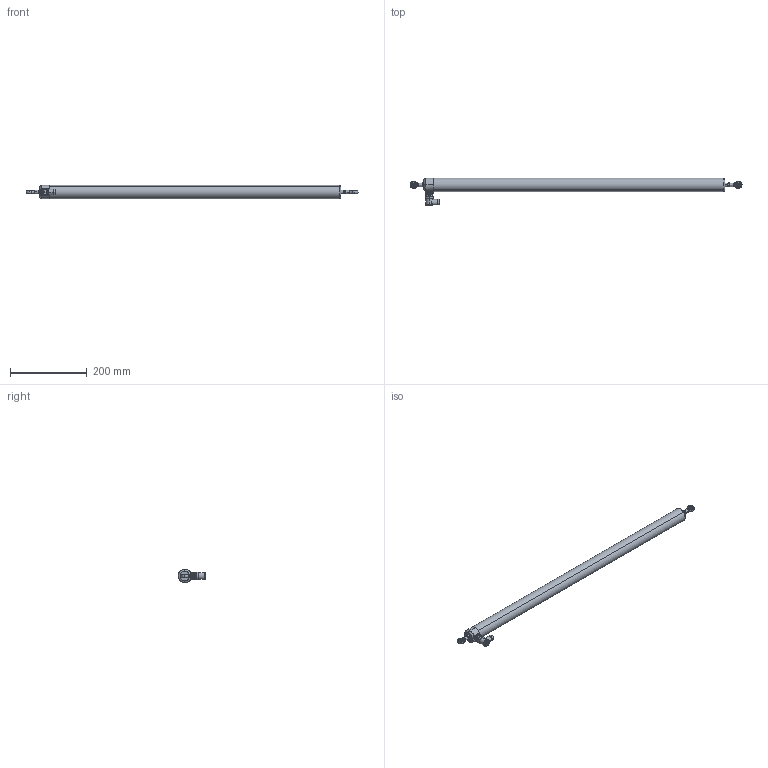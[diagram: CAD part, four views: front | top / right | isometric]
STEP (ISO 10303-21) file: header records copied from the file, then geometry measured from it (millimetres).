
FILE_DESCRIPTION (( 'STEP AP214' ), '1' );
FILE_NAME ('P101-600AKNU.STEP', '2025-04-10T10:28:26', ( '' ), ( '' ), 'SwSTEP 2.0', 'SolidWorks 2023', '' );
FILE_SCHEMA (( 'AUTOMOTIVE_DESIGN' ));
Length unit declared in the file: millimetre
Products named in the file (1): P101-600AKNU
Bounding box: 867.5 x 72.51 x 35 mm (x, y, z)
Surface area: 116184.7 mm2 (no closed solid volume)
Topology: 0 solids, 18 shells, 209 faces, 561 edges, 371 vertices
Faces by surface type: plane 76, cylinder 62, cone 34, torus 16, bspline 13, sphere 8
Entity records: 7066 total; most frequent: CARTESIAN_POINT 1940, DIRECTION 1117, ORIENTED_EDGE 991, EDGE_CURVE 547, AXIS2_PLACEMENT_3D 472, VERTEX_POINT 365, CIRCLE 275, EDGE_LOOP 245
